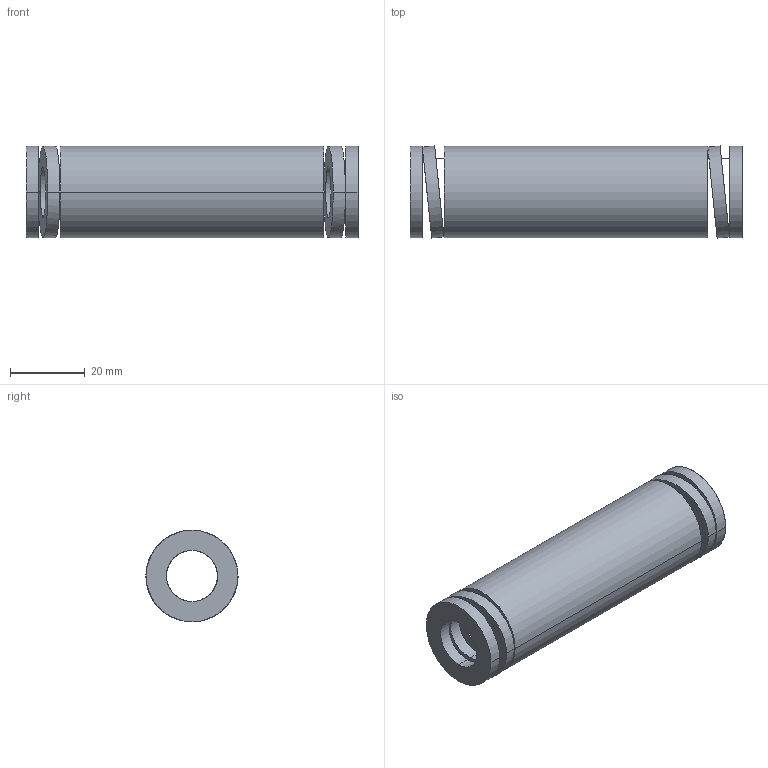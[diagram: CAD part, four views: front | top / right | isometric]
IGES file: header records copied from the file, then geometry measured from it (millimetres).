
Start section: START RECORD GO HERE.
Global section: file name: 392-B25-089.igs; native system: DASSAULT SYSTEMES CATIA V5 R20 - www.3ds.com; preprocessor: CATIA Version 5 Release 20 ; author: Utente; organization: NB04-ASUS; date: 20210813.094719; units: millimetre
Bounding box: 89 x 24.71 x 24.5 mm (x, y, z)
Surface area: 13301.8 mm2 (no closed solid volume)
Topology: 0 solids, 0 shells, 38 faces, 184 edges, 184 vertices
Faces by surface type: revolution 28, plane 10
